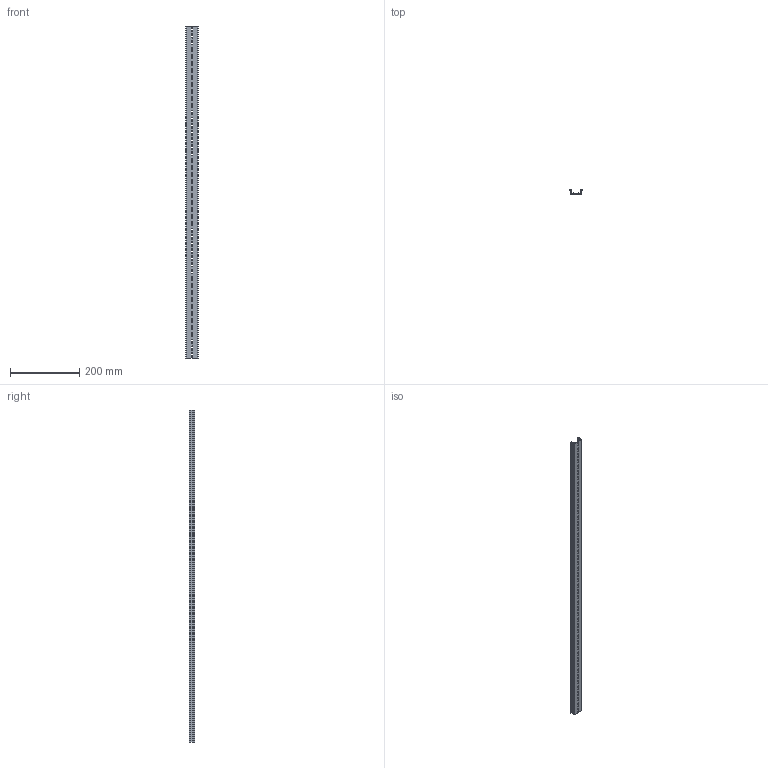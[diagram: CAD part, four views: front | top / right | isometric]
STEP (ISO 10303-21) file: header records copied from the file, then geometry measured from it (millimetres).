
FILE_DESCRIPTION(/* description */ (''),/* implementation_level */ '2;1');
FILE_NAME(/* name */ '22650-(TKB KD-48)HP 3D.stp',/* time_stamp */ '2024-12-05T14:28:36+09:00',/* author */ ('usercadg104'),/* organization */ (''),/* preprocessor_version */ 'ST-DEVELOPER v19.2',/* originating_system */ 'Autodesk Inventor 2023',/* authorisation */ '');
FILE_SCHEMA (('CONFIG_CONTROL_DESIGN'));
Length unit declared in the file: millimetre
Products named in the file (1): TKB KD-3(林)
Bounding box: 35 x 15 x 957 mm (x, y, z)
Volume: 111971.4 mm3; surface area: 129241.5 mm2
Topology: 1 solids, 1 shells, 232 faces, 690 edges, 460 vertices
Faces by surface type: plane 132, cylinder 100
Entity records: 8049 total; most frequent: CARTESIAN_POINT 1383, ORIENTED_EDGE 1380, DIRECTION 1356, EDGE_CURVE 690, LINE 490, VECTOR 490, VERTEX_POINT 460, AXIS2_PLACEMENT_3D 433
